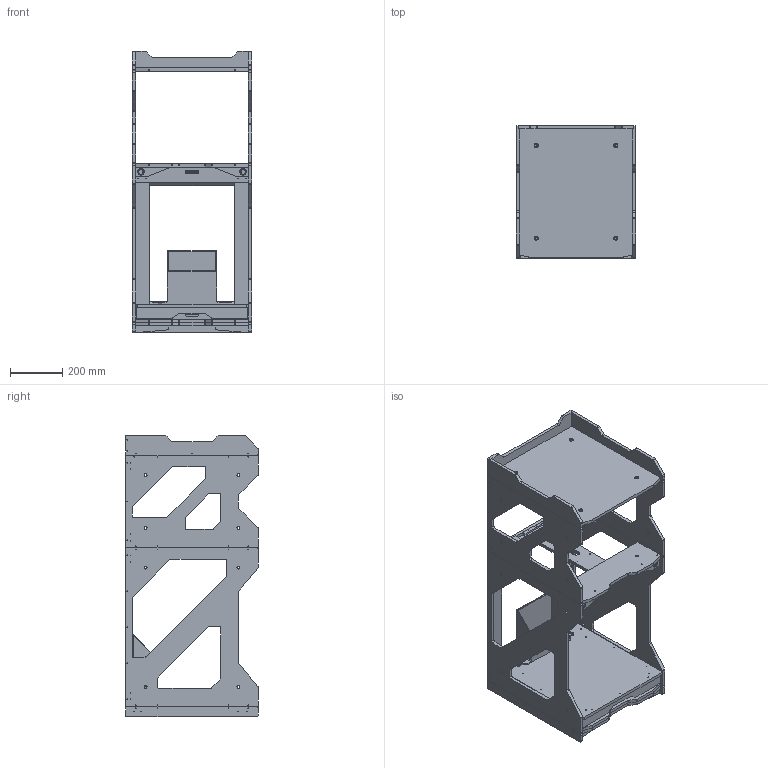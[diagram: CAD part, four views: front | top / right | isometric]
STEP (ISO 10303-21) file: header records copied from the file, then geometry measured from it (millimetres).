
FILE_DESCRIPTION(/* description */ (''),/* implementation_level */ '2;1');
FILE_NAME(/* name */ '2026_04_05_petesquared_printer_stand_p2s.step',/* time_stamp */ '2026-04-05T11:10:32-07:00',/* author */ (''),/* organization */ (''),/* preprocessor_version */ 'ST-DEVELOPER v20.1',/* originating_system */ 'Autodesk Translation Framework v14.24.0.0',/* authorisation */ '');
FILE_SCHEMA (('AUTOMOTIVE_DESIGN { 1 0 10303 214 3 1 1 }'));
Length unit declared in the file: inch
Products named in the file (8): 3d_printer_stand_v3_optimized; ams; ams_shelf; printer; printer_shelf; poop_bin_chute; base; cap
Assembly tree (7 placements, depth 4):
  3d_printer_stand_v3_optimized
    ams
      ams_shelf
    printer
      printer_shelf
        poop_bin_chute
    base
    cap
Bounding box: 457.2 x 508 x 1079.5 mm (x, y, z)
Volume: 20528909.6 mm3; surface area: 4204800.1 mm2
Topology: 42 solids, 42 shells, 1217 faces, 3208 edges, 2120 vertices
Faces by surface type: plane 689, cylinder 498, torus 18, cone 4, bspline 4, sphere 4
Full cylindrical faces by diameter (mm): 3.2 x166, 3.81 x4, 10.414 x32, 12.192 x4, 16.256 x32, 19.431 x2, 25.4 x2
Entity records: 38997 total; most frequent: CARTESIAN_POINT 6743, DIRECTION 6688, ORIENTED_EDGE 6416, EDGE_CURVE 3208, AXIS2_PLACEMENT_3D 2253, LINE 2182, VECTOR 2182, VERTEX_POINT 2120
